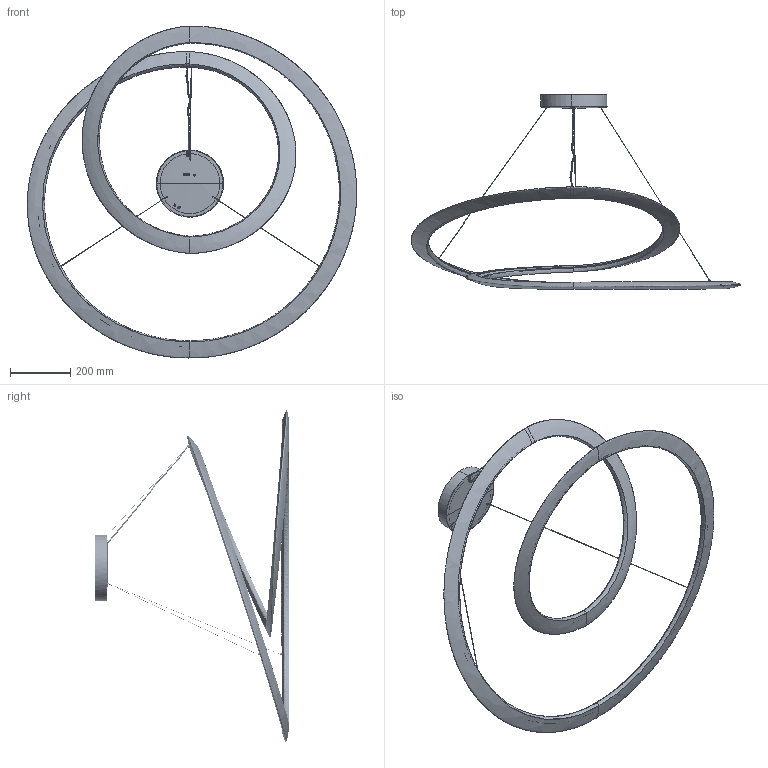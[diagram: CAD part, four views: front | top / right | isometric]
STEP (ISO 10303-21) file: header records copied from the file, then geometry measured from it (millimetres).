
FILE_DESCRIPTION (( 'STEP AP214' ), '1' );
FILE_NAME ('3D_KEPLER_UP_LIGHT.STEP', '2018-04-06T08:43:39', ( 'Utente' ), ( '' ), 'SwSTEP 2.0', 'SolidWorks 2016', '' );
FILE_SCHEMA (( 'AUTOMOTIVE_DESIGN' ));
Length unit declared in the file: millimetre
Products named in the file (5): 049KEP700100_CORPO KEPLER_DEFINITVOMARTI-1^3D_KEPLER_UP_LIGHT; 052KEP700300_A_DIFFUSORE KEPLER APPLICATOMARTI-1^3D_KEPLER_UP_LIGHT; Group5^3D_KEPLER_UP_LIGHT; Group3^3D_KEPLER_UP_LIGHT; 3D_KEPLER_UP_LIGHT
Assembly tree (4 placements, depth 2):
  3D_KEPLER_UP_LIGHT
    Group3^3D_KEPLER_UP_LIGHT
    Group5^3D_KEPLER_UP_LIGHT
    052KEP700300_A_DIFFUSORE KEPLER APPLICATOMARTI-1^3D_KEPLER_UP_LIGHT
    049KEP700100_CORPO KEPLER_DEFINITVOMARTI-1^3D_KEPLER_UP_LIGHT
Bounding box: 1096.13 x 648.24 x 1104.86 mm (x, y, z)
Volume: 4808327.5 mm3; surface area: 1344037 mm2
Topology: 7 solids, 7 shells, 300 faces, 841 edges, 565 vertices
Faces by surface type: plane 135, bspline 115, cylinder 33, sphere 9, torus 4, cone 4
Entity records: 32462 total; most frequent: CARTESIAN_POINT 25202, ORIENTED_EDGE 1682, DIRECTION 1109, EDGE_CURVE 841, VERTEX_POINT 565, AXIS2_PLACEMENT_3D 417, B_SPLINE_CURVE_WITH_KNOTS 334, EDGE_LOOP 318
